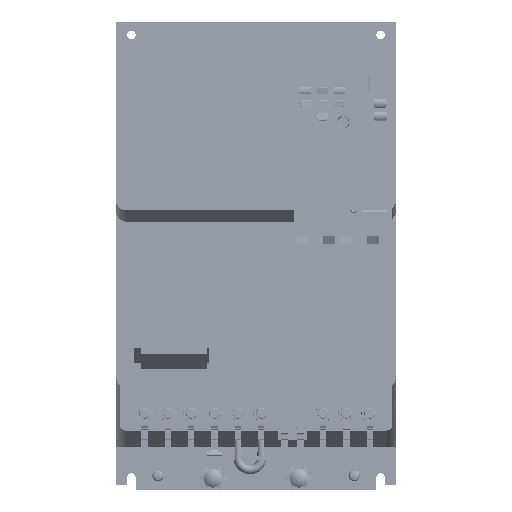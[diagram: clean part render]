
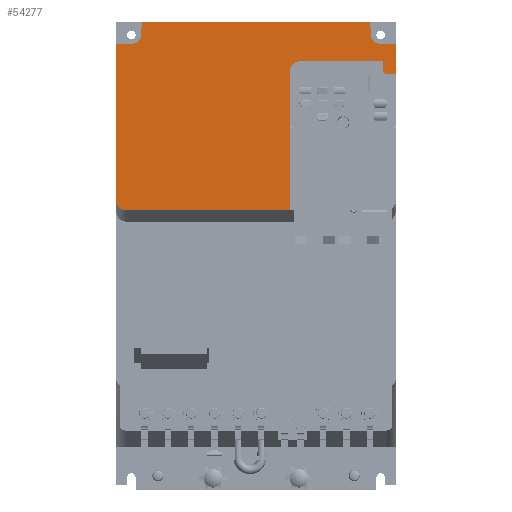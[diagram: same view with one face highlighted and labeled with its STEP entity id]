
A CAD part, top view. The second image highlights one B-rep face of the part: STEP entity #54277.
In plain terms, the highlighted planar face has unit normal (0, 0, 1).
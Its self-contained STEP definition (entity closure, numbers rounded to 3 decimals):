
#3914=CARTESIAN_POINT('',(-83.,186.1,147.));
#3915=DIRECTION('',(0.,0.,1.));
#3916=DIRECTION('',(-1.,0.,0.));
#3917=AXIS2_PLACEMENT_3D('',#3914,#3915,#3916);
#3919=DIRECTION('',(0.,-1.,0.));
#3920=VECTOR('',#3919,99.9);
#3921=CARTESIAN_POINT('',(-90.,286.,147.));
#3922=LINE('',#3921,#3920);
#3923=DIRECTION('',(1.,0.,0.));
#3924=VECTOR('',#3923,10.306);
#3925=CARTESIAN_POINT('',(-90.,286.,147.));
#3926=LINE('',#3925,#3924);
#3927=DIRECTION('',(-0.052,-0.999,0.));
#3928=VECTOR('',#3927,8.325);
#3929=CARTESIAN_POINT('',(-73.266,300.,147.));
#3930=LINE('',#3929,#3928);
#3931=DIRECTION('',(-1.,0.,0.));
#3932=VECTOR('',#3931,146.533);
#3933=CARTESIAN_POINT('',(73.266,300.,147.));
#3934=LINE('',#3933,#3932);
#3935=DIRECTION('',(0.052,-0.999,0.));
#3936=VECTOR('',#3935,8.325);
#3937=CARTESIAN_POINT('',(73.266,300.,147.));
#3938=LINE('',#3937,#3936);
#3939=DIRECTION('',(-1.,0.,0.));
#3940=VECTOR('',#3939,10.306);
#3941=CARTESIAN_POINT('',(90.,286.,147.));
#3942=LINE('',#3941,#3940);
#3943=DIRECTION('',(0.,1.,0.));
#3944=VECTOR('',#3943,19.568);
#3945=CARTESIAN_POINT('',(90.,266.432,147.));
#3946=LINE('',#3945,#3944);
#3947=DIRECTION('',(-0.999,0.052,0.));
#3948=VECTOR('',#3947,6.152);
#3949=CARTESIAN_POINT('',(90.,266.432,147.));
#3950=LINE('',#3949,#3948);
#3951=CARTESIAN_POINT('',(84.,269.5,147.));
#3952=DIRECTION('',(0.,0.,1.));
#3953=DIRECTION('',(-1.,0.,0.));
#3954=AXIS2_PLACEMENT_3D('',#3951,#3952,#3953);
#3956=DIRECTION('',(0.,1.,0.));
#3957=VECTOR('',#3956,5.5);
#3958=CARTESIAN_POINT('',(81.25,269.5,147.));
#3959=LINE('',#3958,#3957);
#3960=DIRECTION('',(-1.,0.,0.));
#3961=VECTOR('',#3960,52.25);
#3962=CARTESIAN_POINT('',(81.25,275.,147.));
#3963=LINE('',#3962,#3961);
#3964=DIRECTION('',(0.,1.,0.));
#3965=VECTOR('',#3964,88.4);
#3966=CARTESIAN_POINT('',(21.5,179.1,147.));
#3967=LINE('',#3966,#3965);
#3968=DIRECTION('',(1.,0.,0.));
#3969=VECTOR('',#3968,104.5);
#3970=CARTESIAN_POINT('',(-83.,179.1,147.));
#3971=LINE('',#3970,#3969);
#7126=CARTESIAN_POINT('',(79.694,292.,147.));
#7127=DIRECTION('',(0.,0.,-1.));
#7128=DIRECTION('',(0.,-1.,0.));
#7129=AXIS2_PLACEMENT_3D('',#7126,#7127,#7128);
#7372=CARTESIAN_POINT('',(-79.694,292.,147.));
#7373=DIRECTION('',(0.,0.,-1.));
#7374=DIRECTION('',(0.999,-0.052,0.));
#7375=AXIS2_PLACEMENT_3D('',#7372,#7373,#7374);
#17653=CARTESIAN_POINT('',(29.,267.5,147.));
#17654=DIRECTION('',(0.,0.,-1.));
#17655=DIRECTION('',(-1.,0.,0.));
#17656=AXIS2_PLACEMENT_3D('',#17653,#17654,#17655);
#38234=CARTESIAN_POINT('',(73.266,300.,147.));
#38235=CARTESIAN_POINT('',(-73.266,300.,147.));
#38236=VERTEX_POINT('',#38234);
#38237=VERTEX_POINT('',#38235);
#38238=CARTESIAN_POINT('',(73.702,291.686,147.));
#38239=VERTEX_POINT('',#38238);
#38240=CARTESIAN_POINT('',(90.,286.,147.));
#38241=CARTESIAN_POINT('',(79.694,286.,147.));
#38242=VERTEX_POINT('',#38240);
#38243=VERTEX_POINT('',#38241);
#38244=CARTESIAN_POINT('',(-90.,286.,147.));
#38245=CARTESIAN_POINT('',(-79.694,286.,147.));
#38246=VERTEX_POINT('',#38244);
#38247=VERTEX_POINT('',#38245);
#38248=CARTESIAN_POINT('',(-73.702,291.686,147.));
#38249=VERTEX_POINT('',#38248);
#38258=CARTESIAN_POINT('',(21.5,179.1,147.));
#38260=VERTEX_POINT('',#38258);
#38262=CARTESIAN_POINT('',(90.,266.432,147.));
#38263=VERTEX_POINT('',#38262);
#38266=CARTESIAN_POINT('',(81.25,275.,147.));
#38268=VERTEX_POINT('',#38266);
#38303=CARTESIAN_POINT('',(29.,275.,147.));
#38305=VERTEX_POINT('',#38303);
#38308=CARTESIAN_POINT('',(21.5,267.5,147.));
#38309=VERTEX_POINT('',#38308);
#38310=CARTESIAN_POINT('',(81.25,269.5,147.));
#38311=CARTESIAN_POINT('',(83.856,266.754,147.));
#38312=VERTEX_POINT('',#38310);
#38313=VERTEX_POINT('',#38311);
#46379=CARTESIAN_POINT('',(-90.,186.1,147.));
#46380=CARTESIAN_POINT('',(-83.,179.1,147.));
#46381=VERTEX_POINT('',#46379);
#46382=VERTEX_POINT('',#46380);
#54239=CARTESIAN_POINT('',(0.,150.,147.));
#54240=DIRECTION('',(0.,0.,1.));
#54241=DIRECTION('',(1.,0.,0.));
#54242=AXIS2_PLACEMENT_3D('',#54239,#54240,#54241);
#54243=PLANE('',#54242);
#54244=ORIENTED_EDGE('',*,*,#54223,.F.);
#54245=ORIENTED_EDGE('',*,*,#53502,.F.);
#54247=ORIENTED_EDGE('',*,*,#54246,.T.);
#54249=ORIENTED_EDGE('',*,*,#54248,.F.);
#54251=ORIENTED_EDGE('',*,*,#54250,.F.);
#54253=ORIENTED_EDGE('',*,*,#54252,.F.);
#54255=ORIENTED_EDGE('',*,*,#54254,.T.);
#54257=ORIENTED_EDGE('',*,*,#54256,.F.);
#54259=ORIENTED_EDGE('',*,*,#54258,.F.);
#54260=ORIENTED_EDGE('',*,*,#49668,.F.);
#54262=ORIENTED_EDGE('',*,*,#54261,.T.);
#54264=ORIENTED_EDGE('',*,*,#54263,.F.);
#54266=ORIENTED_EDGE('',*,*,#54265,.T.);
#54268=ORIENTED_EDGE('',*,*,#54267,.T.);
#54270=ORIENTED_EDGE('',*,*,#54269,.F.);
#54272=ORIENTED_EDGE('',*,*,#54271,.F.);
#54274=ORIENTED_EDGE('',*,*,#54273,.F.);
#54275=EDGE_LOOP('',(#54244,#54245,#54247,#54249,#54251,#54253,#54255,#54257,
#54259,#54260,#54262,#54264,#54266,#54268,#54270,#54272,#54274));
#54276=FACE_OUTER_BOUND('',#54275,.F.);
#3918=CIRCLE('',#3917,7.);
#3955=CIRCLE('',#3954,2.75);
#7130=CIRCLE('',#7129,6.);
#7376=CIRCLE('',#7375,6.);
#17657=CIRCLE('',#17656,7.5);
#49668=EDGE_CURVE('',#38263,#38242,#3946,.T.);
#53502=EDGE_CURVE('',#38246,#46381,#3922,.T.);
#54223=EDGE_CURVE('',#46381,#46382,#3918,.T.);
#54246=EDGE_CURVE('',#38246,#38247,#3926,.T.);
#54248=EDGE_CURVE('',#38249,#38247,#7376,.T.);
#54250=EDGE_CURVE('',#38237,#38249,#3930,.T.);
#54252=EDGE_CURVE('',#38236,#38237,#3934,.T.);
#54254=EDGE_CURVE('',#38236,#38239,#3938,.T.);
#54256=EDGE_CURVE('',#38243,#38239,#7130,.T.);
#54258=EDGE_CURVE('',#38242,#38243,#3942,.T.);
#54261=EDGE_CURVE('',#38263,#38313,#3950,.T.);
#54263=EDGE_CURVE('',#38312,#38313,#3955,.T.);
#54265=EDGE_CURVE('',#38312,#38268,#3959,.T.);
#54267=EDGE_CURVE('',#38268,#38305,#3963,.T.);
#54269=EDGE_CURVE('',#38309,#38305,#17657,.T.);
#54271=EDGE_CURVE('',#38260,#38309,#3967,.T.);
#54273=EDGE_CURVE('',#46382,#38260,#3971,.T.);
#54277=ADVANCED_FACE('',(#54276),#54243,.T.);
